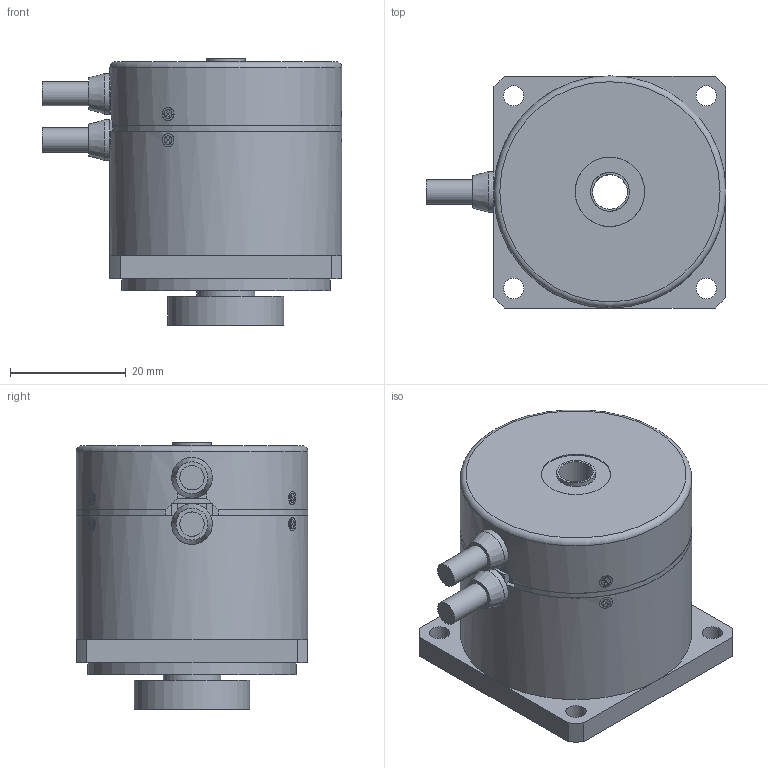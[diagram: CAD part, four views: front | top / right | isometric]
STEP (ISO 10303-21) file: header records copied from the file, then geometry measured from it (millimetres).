
FILE_DESCRIPTION(('STEP AP214'),'1');
FILE_NAME('MDH-4012.stp','2017-10-10T07:29:41',(' '),(' '),'Spatial InterOp 3D',' ',' ');
FILE_SCHEMA(('automotive_design'));
Length unit declared in the file: millimetre
Products named in the file (11): オイルシール; ケーブル; タッピングネジ M1.4x2.2; サラコネジ M1.4x2.5; ｱﾝｷﾞｭﾗﾍﾞｱﾘﾝｸﾞ MTA08-19; ブッシュ; カバー_H; ベース; シャフト_H4012; ケース_4012
Assembly tree (17 placements, depth 2):
  (unnamed)
    オイルシール
    ケーブル  x2
    タッピングネジ M1.4x2.2  x3
    サラコネジ M1.4x2.5  x3
    ｱﾝｷﾞｭﾗﾍﾞｱﾘﾝｸﾞ MTA08-19  x2
    ブッシュ  x2
    カバー_H
    ベース
    シャフト_H4012
    ケース_4012
Bounding box: 51.7 x 40 x 46 mm (x, y, z)
Volume: 21181.3 mm3; surface area: 26597.6 mm2
Topology: 17 solids, 19 shells, 330 faces, 775 edges, 509 vertices
Faces by surface type: plane 196, cylinder 108, cone 24, torus 2
Full cylindrical faces by diameter (mm): 1.1 x6, 1.4 x12, 1.5 x3, 1.6 x9, 2.05 x6, 2.3 x6, 3.5 x4, 4.2 x4, 6 x1, 6.7 x2, 7 x2, 7.3 x1, 8 x4, 10 x2, 11 x4, 12 x4, 13 x1, 15 x2, 16 x4, 17 x2, 19 x4, 20 x1, 24 x1, 36 x1, 37 x1, 38 x1, 38.2 x1, 39 x2, 40 x2
Entity records: 8251 total; most frequent: CARTESIAN_POINT 1662, DIRECTION 981, ORIENTED_EDGE 772, AXIS2_PLACEMENT_3D 393, EDGE_CURVE 386, EDGE_LOOP 377, VERTEX_POINT 304, FACE_OUTER_BOUND 287
